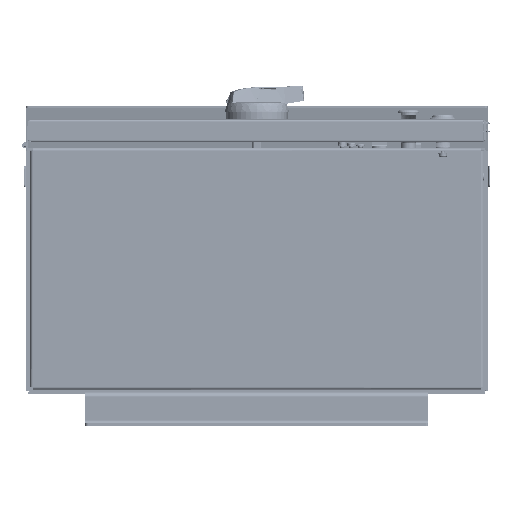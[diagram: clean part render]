
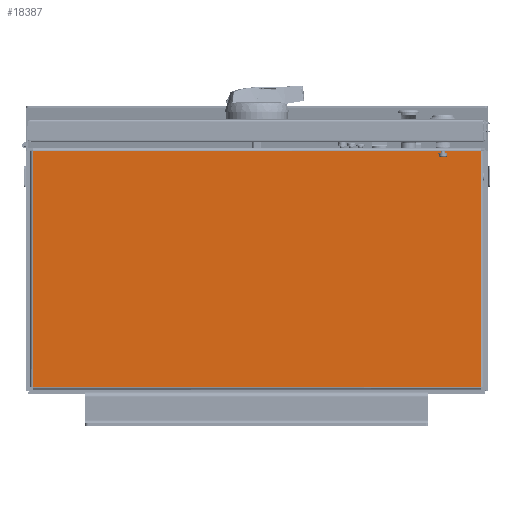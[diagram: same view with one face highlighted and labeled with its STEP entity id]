
A CAD part, front view. The second image highlights one B-rep face of the part: STEP entity #18387.
In plain terms, the highlighted planar face has unit normal (0, -1, 0).
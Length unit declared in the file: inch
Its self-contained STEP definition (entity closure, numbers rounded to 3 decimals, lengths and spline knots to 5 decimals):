
#2177 = VERTEX_POINT ( 'NONE', #58987 ) ;
#5663 = AXIS2_PLACEMENT_3D ( 'NONE', #72956, #128275, #224344 ) ;
#11846 = EDGE_CURVE ( 'NONE', #2177, #227480, #215097, .T. ) ;
#18387 = ADVANCED_FACE ( 'NONE', ( #90981 ), #237630, .F. ) ;
#21576 = ORIENTED_EDGE ( 'NONE', *, *, #134024, .T. ) ;
#29576 = CARTESIAN_POINT ( 'NONE',  ( -9.7903, -0.0747, -5.1653 ) ) ;
#33108 = LINE ( 'NONE', #142467, #171093 ) ;
#36375 = EDGE_CURVE ( 'NONE', #227480, #237115, #70022, .T. ) ;
#49924 = DIRECTION ( 'NONE',  ( 0., 0., 1. ) ) ;
#58987 = CARTESIAN_POINT ( 'NONE',  ( 9.7903, -0.0747, 5.1653 ) ) ;
#69588 = CARTESIAN_POINT ( 'NONE',  ( 9.79494, -0.0747, 5.1653 ) ) ;
#70022 = LINE ( 'NONE', #143389, #103573 ) ;
#72737 = CARTESIAN_POINT ( 'NONE',  ( -9.7903, -0.0747, 5.1653 ) ) ;
#72956 = CARTESIAN_POINT ( 'NONE',  ( 0., -0.0747, 0. ) ) ;
#89277 = DIRECTION ( 'NONE',  ( 0., 0., -1. ) ) ;
#90981 = FACE_OUTER_BOUND ( 'NONE', #177354, .T. ) ;
#94373 = DIRECTION ( 'NONE',  ( 1., 0., 0. ) ) ;
#103573 = VECTOR ( 'NONE', #89277, 39.37008 ) ;
#114812 = LINE ( 'NONE', #130471, #136973 ) ;
#128275 = DIRECTION ( 'NONE',  ( 0., 1., 0. ) ) ;
#130471 = CARTESIAN_POINT ( 'NONE',  ( -9.79494, -0.0747, -5.1653 ) ) ;
#134024 = EDGE_CURVE ( 'NONE', #197589, #2177, #33108, .T. ) ;
#136973 = VECTOR ( 'NONE', #94373, 39.37008 ) ;
#142467 = CARTESIAN_POINT ( 'NONE',  ( 9.7903, -0.0747, -5.16994 ) ) ;
#143389 = CARTESIAN_POINT ( 'NONE',  ( -9.7903, -0.0747, 5.16994 ) ) ;
#161204 = ORIENTED_EDGE ( 'NONE', *, *, #36375, .T. ) ;
#166927 = ORIENTED_EDGE ( 'NONE', *, *, #11846, .T. ) ;
#171093 = VECTOR ( 'NONE', #49924, 39.37008 ) ;
#173825 = EDGE_CURVE ( 'NONE', #237115, #197589, #114812, .T. ) ;
#177354 = EDGE_LOOP ( 'NONE', ( #161204, #216977, #21576, #166927 ) ) ;
#181415 = DIRECTION ( 'NONE',  ( -1., 0., 0. ) ) ;
#197589 = VERTEX_POINT ( 'NONE', #230691 ) ;
#204151 = VECTOR ( 'NONE', #181415, 39.37008 ) ;
#215097 = LINE ( 'NONE', #69588, #204151 ) ;
#216977 = ORIENTED_EDGE ( 'NONE', *, *, #173825, .T. ) ;
#224344 = DIRECTION ( 'NONE',  ( 0., 0., 1. ) ) ;
#227480 = VERTEX_POINT ( 'NONE', #72737 ) ;
#230691 = CARTESIAN_POINT ( 'NONE',  ( 9.7903, -0.0747, -5.1653 ) ) ;
#237115 = VERTEX_POINT ( 'NONE', #29576 ) ;
#237630 = PLANE ( 'NONE',  #5663 ) ;
